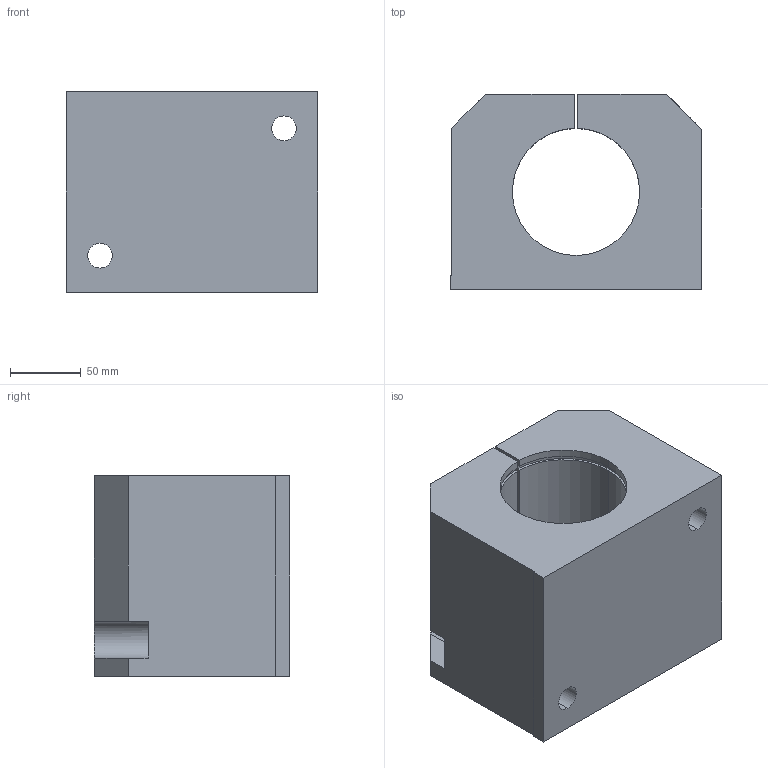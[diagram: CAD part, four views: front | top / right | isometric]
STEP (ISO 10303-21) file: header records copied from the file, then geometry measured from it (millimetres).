
FILE_DESCRIPTION (( 'STEP AP214' ), '1' );
FILE_NAME ('KGE36-60.step', '2020-03-04T13:20:34', ( '' ), ( '' ), 'SwSTEP 2.0', 'SolidWorks 2019', '' );
FILE_SCHEMA (( 'AUTOMOTIVE_DESIGN' ));
Length unit declared in the file: millimetre
Products named in the file (1): KGE36-60
Bounding box: 178 x 138 x 142 mm (x, y, z)
Volume: 2347676.9 mm3; surface area: 189042.5 mm2
Topology: 1 solids, 1 shells, 61 faces, 168 edges, 109 vertices
Faces by surface type: cylinder 31, plane 26, cone 4
Entity records: 2132 total; most frequent: CARTESIAN_POINT 415, DIRECTION 340, ORIENTED_EDGE 332, EDGE_CURVE 166, AXIS2_PLACEMENT_3D 120, VERTEX_POINT 109, LINE 100, VECTOR 100
